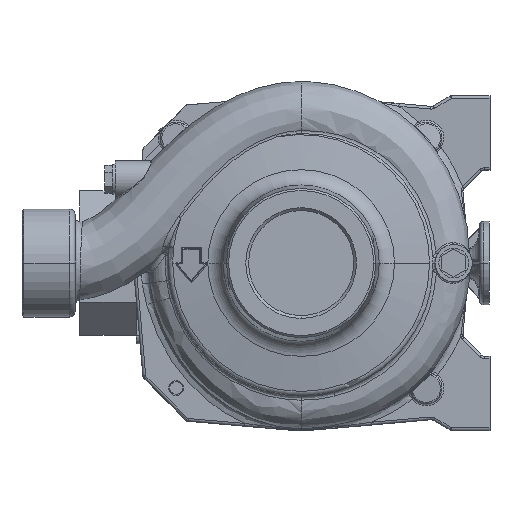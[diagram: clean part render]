
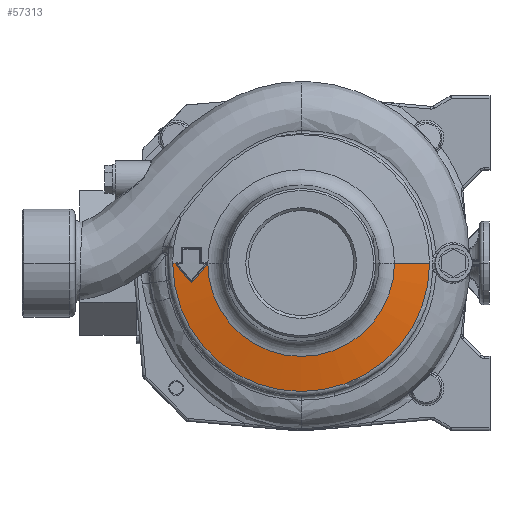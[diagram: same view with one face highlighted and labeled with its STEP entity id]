
A CAD part, left-side view. The second image highlights one B-rep face of the part: STEP entity #57313.
In plain terms, the highlighted conical face has half-angle 80 degrees and reference radius 59.599 mm.
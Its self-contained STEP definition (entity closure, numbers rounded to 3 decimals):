
#45723=CARTESIAN_POINT('',(0.,67.098,
15.222));
#45765=DIRECTION('',(0.,0.985,0.174));
#45766=VECTOR('',#45765,19.134);
#45767=CARTESIAN_POINT('',(0.,-69.021,
14.883));
#45768=LINE('',#45767,#45766);
#45784=CARTESIAN_POINT('',(-1.141,50.828,
18.088));
#45785=CARTESIAN_POINT('',(-1.111,50.803,
18.093));
#45786=CARTESIAN_POINT('',(-1.047,50.756,
18.101));
#45787=CARTESIAN_POINT('',(-0.941,50.695,
18.112));
#45788=CARTESIAN_POINT('',(-0.82,50.644,
18.122));
#45789=CARTESIAN_POINT('',(-0.68,50.607,
18.129));
#45790=CARTESIAN_POINT('',(-0.518,50.59,
18.132));
#45791=CARTESIAN_POINT('',(-0.342,50.601,
18.13));
#45792=CARTESIAN_POINT('',(-0.165,50.646,
18.123));
#45793=CARTESIAN_POINT('',(-0.054,50.697,
18.114));
#45794=CARTESIAN_POINT('',(0.,50.728,
18.108));
#45796=DIRECTION('',(0.,-0.985,0.174));
#45797=VECTOR('',#45796,0.559);
#45798=CARTESIAN_POINT('',(0.,50.728,
18.108));
#45799=LINE('',#45798,#45797);
#45800=CARTESIAN_POINT('',(0.,0.,18.205));
#45801=DIRECTION('',(0.,0.,-1.));
#45802=DIRECTION('',(0.,-1.,0.));
#45803=AXIS2_PLACEMENT_3D('',#45800,#45801,#45802);
#45805=CARTESIAN_POINT('',(0.,0.,14.883));
#45806=DIRECTION('',(0.,0.,1.));
#45807=DIRECTION('',(0.,1.,0.));
#45808=AXIS2_PLACEMENT_3D('',#45805,#45806,#45807);
#45810=DIRECTION('',(0.,-0.985,0.174));
#45811=VECTOR('',#45810,1.953);
#45812=CARTESIAN_POINT('',(0.,69.021,
14.883));
#45813=LINE('',#45812,#45811);
#45814=CARTESIAN_POINT('',(0.,67.098,
15.222));
#45815=CARTESIAN_POINT('',(-0.059,67.132,
15.216));
#45816=CARTESIAN_POINT('',(-0.182,67.187,
15.206));
#45817=CARTESIAN_POINT('',(-0.383,67.232,
15.198));
#45818=CARTESIAN_POINT('',(-0.588,67.235,
15.197));
#45819=CARTESIAN_POINT('',(-0.789,67.196,
15.204));
#45820=CARTESIAN_POINT('',(-0.978,67.117,
15.217));
#45821=CARTESIAN_POINT('',(-1.089,67.042,
15.23));
#45822=CARTESIAN_POINT('',(-1.141,66.998,
15.238));
#45824=CARTESIAN_POINT('',(-1.141,66.998,
15.238));
#45825=CARTESIAN_POINT('',(-2.149,66.152,
15.384));
#45826=CARTESIAN_POINT('',(-4.135,64.483,
15.664));
#45827=CARTESIAN_POINT('',(-7.035,62.046,
16.047));
#45828=CARTESIAN_POINT('',(-8.919,60.463,
16.278));
#45829=CARTESIAN_POINT('',(-9.851,59.68,
16.387));
#45831=CARTESIAN_POINT('',(-9.851,59.68,
16.387));
#45832=CARTESIAN_POINT('',(-9.875,59.66,
16.39));
#45833=CARTESIAN_POINT('',(-9.924,59.615,
16.397));
#45834=CARTESIAN_POINT('',(-9.998,59.531,
16.409));
#45835=CARTESIAN_POINT('',(-10.068,59.429,
16.425));
#45836=CARTESIAN_POINT('',(-10.132,59.306,
16.444));
#45837=CARTESIAN_POINT('',(-10.181,59.161,
16.468));
#45838=CARTESIAN_POINT('',(-10.209,58.993,
16.496));
#45839=CARTESIAN_POINT('',(-10.208,58.809,
16.528));
#45840=CARTESIAN_POINT('',(-10.17,58.621,
16.562));
#45841=CARTESIAN_POINT('',(-10.096,58.443,
16.595));
#45842=CARTESIAN_POINT('',(-9.989,58.281,
16.627));
#45843=CARTESIAN_POINT('',(-9.9,58.19,
16.645));
#45844=CARTESIAN_POINT('',(-9.85,58.148,
16.654));
#45846=CARTESIAN_POINT('',(-9.85,58.148,
16.654));
#45847=CARTESIAN_POINT('',(-8.803,57.268,
16.838));
#45848=CARTESIAN_POINT('',(-6.764,55.554,
17.188));
#45849=CARTESIAN_POINT('',(-3.877,53.129,
17.664));
#45850=CARTESIAN_POINT('',(-2.038,51.583,
17.952));
#45851=CARTESIAN_POINT('',(-1.141,50.828,
18.088));
#47464=CARTESIAN_POINT('',(0.,-50.178,18.205));
#47465=CARTESIAN_POINT('',(0.,50.178,18.205));
#47466=VERTEX_POINT('',#47464);
#47467=VERTEX_POINT('',#47465);
#47520=CARTESIAN_POINT('',(0.,69.021,14.883));
#47521=CARTESIAN_POINT('',(0.,-69.021,14.883));
#47522=VERTEX_POINT('',#47520);
#47523=VERTEX_POINT('',#47521);
#47540=VERTEX_POINT('',#45784);
#47541=VERTEX_POINT('',#45794);
#47566=VERTEX_POINT('',#45723);
#47568=VERTEX_POINT('',#45822);
#47570=VERTEX_POINT('',#45829);
#47572=VERTEX_POINT('',#45844);
#57291=CARTESIAN_POINT('',(0.,0.,16.544));
#57292=DIRECTION('',(0.,0.,-1.));
#57293=DIRECTION('',(0.,-1.,0.));
#57294=AXIS2_PLACEMENT_3D('',#57291,#57292,#57293);
#57295=CONICAL_SURFACE('',#57294,59.6,80.);
#57296=ORIENTED_EDGE('',*,*,#57281,.T.);
#57297=ORIENTED_EDGE('',*,*,#57075,.T.);
#57299=ORIENTED_EDGE('',*,*,#57298,.F.);
#57300=ORIENTED_EDGE('',*,*,#57071,.F.);
#57301=ORIENTED_EDGE('',*,*,#56239,.F.);
#57302=ORIENTED_EDGE('',*,*,#57066,.T.);
#57304=ORIENTED_EDGE('',*,*,#57303,.T.);
#57306=ORIENTED_EDGE('',*,*,#57305,.T.);
#57308=ORIENTED_EDGE('',*,*,#57307,.T.);
#57310=ORIENTED_EDGE('',*,*,#57309,.T.);
#57311=EDGE_LOOP('',(#57296,#57297,#57299,#57300,#57301,#57302,#57304,#57306,
#57308,#57310));
#57312=FACE_OUTER_BOUND('',#57311,.F.);
#45795=B_SPLINE_CURVE_WITH_KNOTS('',3,(#45784,#45785,#45786,#45787,#45788,
#45789,#45790,#45791,#45792,#45793,#45794),.UNSPECIFIED.,.F.,.F.,(4,1,1,1,1,1,1,
1,4),(0.,0.125,0.25,0.375,0.5,0.625,0.75,0.875,1.),
.UNSPECIFIED.);
#45804=CIRCLE('',#45803,50.178);
#45809=CIRCLE('',#45808,69.021);
#45823=B_SPLINE_CURVE_WITH_KNOTS('',3,(#45814,#45815,#45816,#45817,#45818,
#45819,#45820,#45821,#45822),.UNSPECIFIED.,.F.,.F.,(4,1,1,1,1,1,4),(0.,
0.167,0.333,0.5,0.667,0.833,
1.),.UNSPECIFIED.);
#45830=B_SPLINE_CURVE_WITH_KNOTS('',3,(#45824,#45825,#45826,#45827,#45828,
#45829),.UNSPECIFIED.,.F.,.F.,(4,1,1,4),(0.,0.333,
0.667,1.),.UNSPECIFIED.);
#45845=B_SPLINE_CURVE_WITH_KNOTS('',3,(#45831,#45832,#45833,#45834,#45835,
#45836,#45837,#45838,#45839,#45840,#45841,#45842,#45843,#45844),.UNSPECIFIED.,
.F.,.F.,(4,1,1,1,1,1,1,1,1,1,1,4),(0.,0.091,0.182,
0.273,0.364,0.455,0.545,
0.636,0.727,0.818,0.909,1.),
.UNSPECIFIED.);
#45852=B_SPLINE_CURVE_WITH_KNOTS('',3,(#45846,#45847,#45848,#45849,#45850,
#45851),.UNSPECIFIED.,.F.,.F.,(4,1,1,4),(0.,0.333,
0.667,1.),.UNSPECIFIED.);
#56239=EDGE_CURVE('',#47522,#47523,#45809,.T.);
#57066=EDGE_CURVE('',#47522,#47566,#45813,.T.);
#57071=EDGE_CURVE('',#47523,#47466,#45768,.T.);
#57075=EDGE_CURVE('',#47541,#47467,#45799,.T.);
#57281=EDGE_CURVE('',#47540,#47541,#45795,.T.);
#57298=EDGE_CURVE('',#47466,#47467,#45804,.T.);
#57303=EDGE_CURVE('',#47566,#47568,#45823,.T.);
#57305=EDGE_CURVE('',#47568,#47570,#45830,.T.);
#57307=EDGE_CURVE('',#47570,#47572,#45845,.T.);
#57309=EDGE_CURVE('',#47572,#47540,#45852,.T.);
#57313=ADVANCED_FACE('',(#57312),#57295,.T.);
